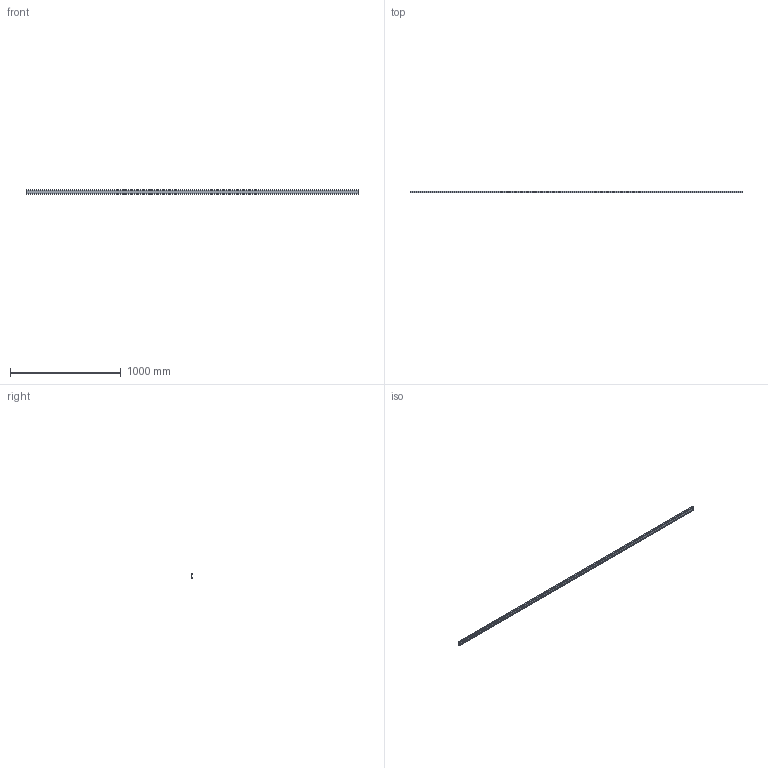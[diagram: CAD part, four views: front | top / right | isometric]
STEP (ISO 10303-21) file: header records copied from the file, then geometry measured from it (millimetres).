
FILE_DESCRIPTION (( 'STEP AP214' ), '1' );
FILE_NAME ('FABER - FD7 1A.STEP', '2017-04-06T07:34:59', ( '' ), ( '' ), 'SwSTEP 2.0', 'SolidWorks 2016', '' );
FILE_SCHEMA (( 'AUTOMOTIVE_DESIGN' ));
Length unit declared in the file: millimetre
Products named in the file (1): FABER - FD7 1A
Bounding box: 3000 x 12 x 40 mm (x, y, z)
Volume: 758250 mm3; surface area: 423505.5 mm2
Topology: 1 solids, 1 shells, 14 faces, 36 edges, 24 vertices
Faces by surface type: plane 14
Entity records: 454 total; most frequent: CARTESIAN_POINT 75, ORIENTED_EDGE 72, DIRECTION 66, EDGE_CURVE 36, LINE 36, VECTOR 36, VERTEX_POINT 24, AXIS2_PLACEMENT_3D 15
